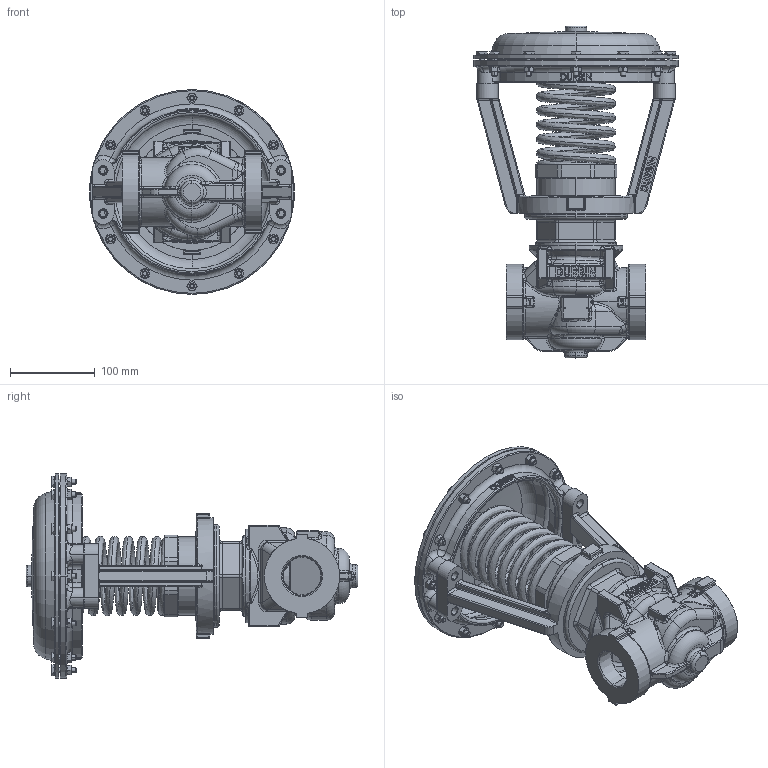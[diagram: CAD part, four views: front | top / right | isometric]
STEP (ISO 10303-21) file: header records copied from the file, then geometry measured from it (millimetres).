
FILE_DESCRIPTION (( 'STEP AP203' ), '1' );
FILE_NAME ('1.50 2W SM NPT SC500-STEP.STEP', '2018-11-07T15:12:04', ( '' ), ( '' ), 'SwSTEP 2.0', 'SolidWorks 2012', '' );
FILE_SCHEMA (( 'CONFIG_CONTROL_DESIGN' ));
Products named in the file (12): 1.50 2W SM NPT SC500-STEP; D293-051DR; H060-03; H096-11; C293-030DR; D771; C293-030DM; C893-022D-SS; D283-100D-SS; C563-022D-SS; C013-007D-SS; C093-146D-SS
Assembly tree (33 placements, depth 3):
  1.50 2W SM NPT SC500-STEP
    C093-146D-SS
    C013-007D-SS
    C563-022D-SS
    D283-100D-SS
    C893-022D-SS
    C293-030DR
      C293-030DM
      D771
    H096-11  x12
    H060-03  x12
    D293-051DR
Bounding box: 241.81 x 391.97 x 241.81 mm (x, y, z)
Volume: 2270040.5 mm3; surface area: 599259.9 mm2
Topology: 32 solids, 32 shells, 3965 faces, 9286 edges, 5384 vertices
Faces by surface type: plane 1010, cylinder 873, bspline 855, cone 467, torus 380, sphere 380
Entity records: 126855 total; most frequent: CARTESIAN_POINT 63884, ORIENTED_EDGE 13638, DIRECTION 11637, EDGE_CURVE 6819, AXIS2_PLACEMENT_3D 4642, VERTEX_POINT 4174, EDGE_LOOP 2983, ADVANCED_FACE 2777
